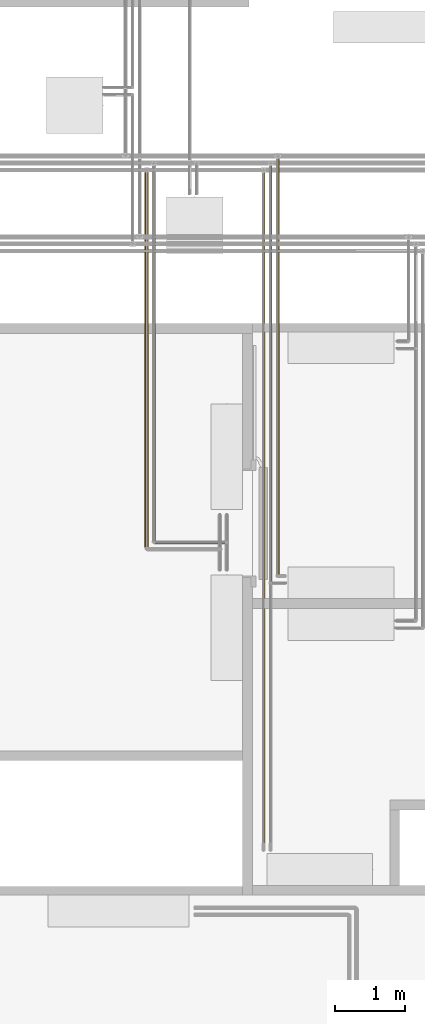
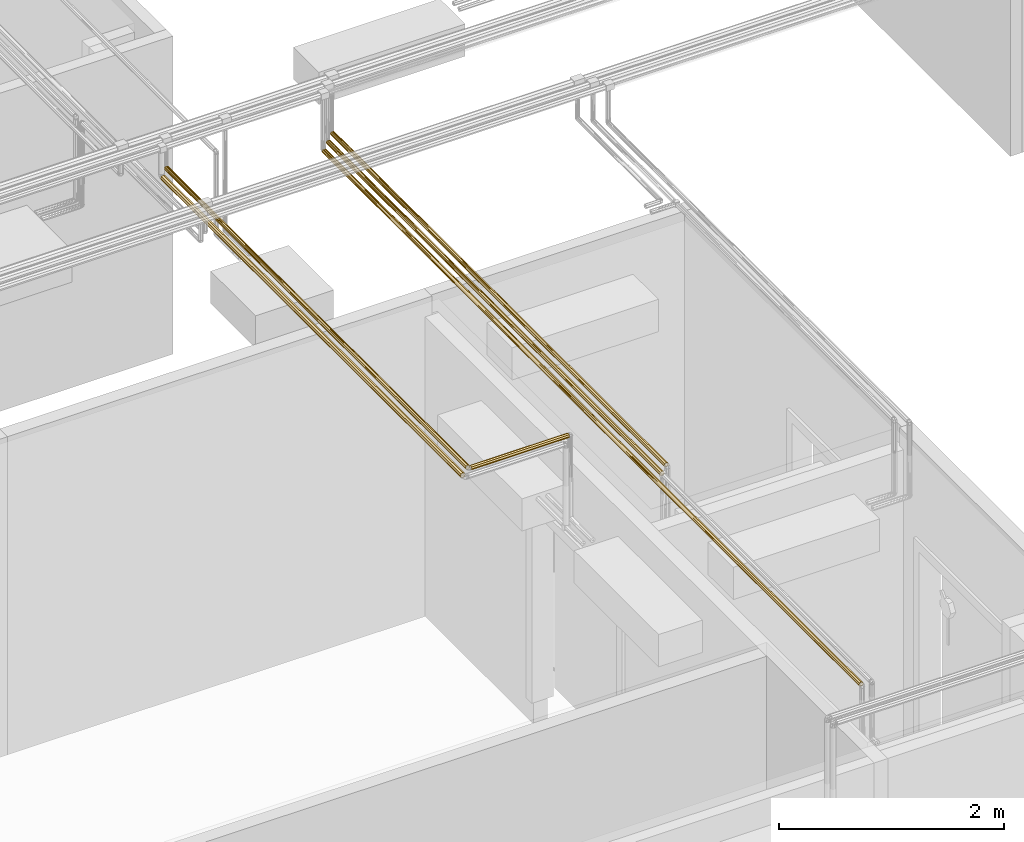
# One storey, part 95 of 652: 6 coverings.
"""IFC2X3 building model written with IfcOpenShell, lengths in millimetres."""

from ifc_helpers import new_model, entity, si_unit, converted_unit, direction, frame, origin, place, context, subcontext, project, spatial, faceted_brep, material, type_object, element, save


model = new_model("IFC2X3")

# Units and contexts
model_context = context("Model", 3, precision=0.01, world=frame((0.0, 0.0, 308426.39999999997)), true_north=direction((6.123233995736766e-17, 1.0)))
plan_context = context("Plan", 3, precision=0.01, world=frame((0.0, 0.0, 308426.39999999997)), true_north=direction((6.123233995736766e-17, 1.0)))
body_context = subcontext(model_context, "Body", "Model", "MODEL_VIEW")
ifc_project = project(units=[si_unit("LENGTHUNIT", "METRE", prefix="MILLI"), si_unit("AREAUNIT", "SQUARE_METRE"), si_unit("VOLUMEUNIT", "CUBIC_METRE"), converted_unit("PLANEANGLEUNIT", "DEGREE", entity("IfcPlaneAngleMeasure", 0.017453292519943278), si_unit("PLANEANGLEUNIT", "RADIAN"), dimensions=[0, 0, 0, 0, 0, 0, 0])], contexts=[model_context, plan_context])

# Site, building, storey
site_placement = place(None, origin())
site = spatial("IfcSite", under=ifc_project, at=site_placement, Name="Default", CompositionType="ELEMENT")
building_placement = place(site_placement, origin())
building = spatial("IfcBuilding", under=site, at=building_placement, CompositionType="ELEMENT")
storey_placement = place(building_placement, frame((0.0, 0.0, 1730.6999999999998)))
storey = spatial("IfcBuildingStorey", under=building, at=storey_placement, Name="EG_Produktion_FFB", CompositionType="ELEMENT", Elevation=1730.6999999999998)

# Coverings
ifc_material = material(Name="Dämmung - Armaflex-Schlauch")
covering_type = type_object("IfcCoveringType", Name="Rohrdämmung außen:Armaflex-Schlauch", PredefinedType="INSULATION")
covering_1_placement = place(storey_placement, frame((35654.64222776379, 55051.21766122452, 3274.642227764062)))
element("IfcCovering", 1, at=covering_1_placement, inside=storey, type_object=covering_type, material=ifc_material, Name="Rohrdämmung außen:Armaflex-Schlauch", ObjectType="Rohrdämmung außen:Armaflex-Schlauch", PredefinedType="INSULATION", context=body_context, shape_type="Brep", body=[
    faceted_brep([(40.92841548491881, 5930.832088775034, 43.30802223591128), (43.951164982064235, 5930.832088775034, 39.26743877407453), (46.97391447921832, 5930.832088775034, 35.2268553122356), (48.04709335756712, 5930.832088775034, 30.292313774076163), (49.12027223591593, 5930.832088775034, 25.35777223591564), (47.38030345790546, 5930.832088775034, 21.157116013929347), (45.64033467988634, 5930.832088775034, 16.956459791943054), (43.900365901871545, 5930.832088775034, 12.755803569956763), (42.16039712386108, 5930.832088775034, 8.55514734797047), (37.95974090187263, 5930.832088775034, 6.8151785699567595), (33.759084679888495, 5930.832088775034, 5.075209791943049), (29.55842845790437, 5930.832088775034, 3.335241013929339), (25.357772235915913, 5930.832088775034, 1.595272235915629), (21.157116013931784, 5930.832088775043, 3.335241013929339), (16.956459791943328, 5930.832088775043, 5.075209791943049), (12.755803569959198, 5930.832088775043, 6.8151785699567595), (8.55514734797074, 5930.832088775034, 8.55514734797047), (6.815178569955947, 5930.832088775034, 12.755803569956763), (5.075209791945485, 5930.832088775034, 16.956459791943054), (3.3352410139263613, 5930.832088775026, 21.157116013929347), (1.5952722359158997, 5930.832088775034, 25.35777223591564), (2.6684511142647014, 5930.832088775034, 30.292313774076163), (3.7416299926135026, 5930.832088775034, 35.22685531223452), (6.764379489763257, 5930.832088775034, 39.26743877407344), (9.787128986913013, 5930.832088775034, 43.30802223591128), (8.55514734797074, 1.5952722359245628, 42.16039712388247), (6.81517856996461, 1.5952722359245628, 37.959740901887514), (5.075209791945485, 1.5952722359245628, 33.75908467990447), (3.3352410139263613, 1.5952722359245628, 29.558428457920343), (1.5952722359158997, 1.5952722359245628, 25.357772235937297), (2.9757514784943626, 1.5952722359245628, 19.799182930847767), (4.356230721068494, 1.5952722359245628, 14.240593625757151), (8.175620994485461, 1.5952722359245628, 9.97455793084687), (11.99501126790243, 1.5952722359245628, 5.70852223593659), (38.720533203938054, 1.5952722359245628, 5.708522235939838), (42.53992347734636, 1.5952722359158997, 9.974557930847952), (46.35931375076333, 1.5952722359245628, 14.240593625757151), (47.73979299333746, 1.5952722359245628, 19.799182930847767), (49.12027223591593, 1.5952722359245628, 25.357772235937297), (47.69950263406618, 1.5952722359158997, 28.787813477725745), (45.64033467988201, 1.5952722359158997, 33.75908467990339), (43.90036590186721, 1.5952722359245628, 37.959740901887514), (42.16039712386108, 1.5952722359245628, 42.16039712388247), (37.95974090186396, 1.5952722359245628, 43.900365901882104), (33.75908467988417, 1.5952722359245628, 45.64033467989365), (29.558428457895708, 1.5952722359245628, 47.38030345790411), (25.357772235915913, 1.5952722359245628, 49.120272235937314), (21.157116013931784, 1.5952722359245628, 47.38030345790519), (16.95645979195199, 1.5952722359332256, 45.64033467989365), (12.755803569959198, 1.5952722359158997, 43.900365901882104), (25.357772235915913, 5.708522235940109, 1.595272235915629), (32.348519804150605, 4.6569415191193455, 2.6468529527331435), (18.367024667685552, 4.6569415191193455, 2.646852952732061), (21.20275131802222, 5925.77005545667, 48.370055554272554), (13.417429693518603, 5928.676180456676, 45.46393055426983), (17.047730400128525, 5926.5202721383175, 47.61983887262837), (25.357772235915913, 5925.019838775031, 49.12027223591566), (29.512793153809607, 5925.77005545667, 48.370055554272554), (33.6678140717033, 5926.5202721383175, 47.61983887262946), (37.29811477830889, 5928.676180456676, 45.46393055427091)], [[[0, 1, 2, 3, 4, 5, 6, 7, 8, 9, 10, 11, 12, 13, 14, 15, 16, 17, 18, 19, 20, 21, 22, 23, 24]], [[25, 26, 27, 28, 29, 30, 31, 32, 33, 34, 35, 36, 37, 38, 39, 40, 41, 42, 43, 44, 45, 46, 47, 48, 49]], [[36, 6, 37]], [[7, 35, 8]], [[38, 37, 5]], [[35, 7, 36]], [[34, 8, 35]], [[8, 34, 10, 9]], [[50, 11, 51]], [[37, 6, 5]], [[11, 50, 12]], [[34, 51, 10]], [[11, 10, 51]], [[38, 5, 4]], [[7, 6, 36]], [[13, 12, 50]], [[16, 33, 32]], [[52, 13, 50]], [[19, 18, 30]], [[31, 17, 32]], [[19, 29, 20]], [[30, 18, 31]], [[33, 14, 52]], [[52, 14, 13]], [[17, 16, 32]], [[29, 19, 30]], [[33, 16, 15, 14]], [[31, 18, 17]], [[23, 26, 25]], [[29, 28, 20]], [[27, 22, 21]], [[27, 26, 22]], [[46, 53, 47]], [[24, 49, 54]], [[55, 48, 47]], [[21, 28, 27]], [[48, 55, 54]], [[22, 26, 23]], [[53, 55, 47]], [[20, 28, 21]], [[25, 24, 23]], [[56, 53, 46]], [[49, 24, 25]], [[49, 48, 54]], [[46, 57, 56]], [[3, 40, 39]], [[57, 46, 45]], [[58, 44, 59]], [[1, 42, 41]], [[42, 1, 0]], [[40, 3, 2]], [[0, 43, 42]], [[44, 58, 45]], [[39, 4, 3]], [[0, 59, 43]], [[41, 2, 1]], [[41, 40, 2]], [[45, 58, 57]], [[39, 38, 4]], [[59, 44, 43]], [[0, 24, 54, 55, 53, 56, 57, 58, 59]], [[33, 52, 50, 51, 34]]]),
])
covering_2_placement = place(storey_placement, frame((33994.64222776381, 55628.229568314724, 3574.6422277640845)))
element("IfcCovering", 2, at=covering_2_placement, inside=storey, type_object=covering_type, material=ifc_material, Name="Rohrdämmung außen:Armaflex-Schlauch", ObjectType="Rohrdämmung außen:Armaflex-Schlauch", PredefinedType="INSULATION", context=body_context, shape_type="Brep", body=[
    faceted_brep([(35.22685531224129, 1.5952722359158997, 3.7416299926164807), (39.26743877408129, 1.5952722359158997, 6.764379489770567), (43.30802223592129, 1.5952722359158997, 9.787128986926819), (43.30802223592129, 1.5952722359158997, 40.92841548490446), (39.267438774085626, 1.5952722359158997, 43.95116498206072), (35.22685531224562, 1.5952722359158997, 46.97391447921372), (30.292313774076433, 1.5952722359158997, 48.04709335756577), (25.357772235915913, 1.5952722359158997, 49.12027223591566), (21.157116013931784, 1.5952722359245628, 47.380303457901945), (16.956459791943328, 1.5952722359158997, 45.640334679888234), (12.755803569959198, 1.5952722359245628, 43.90036590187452), (8.55514734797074, 1.5952722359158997, 42.16039712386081), (6.815178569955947, 1.5952722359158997, 37.95974090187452), (5.075209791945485, 1.5952722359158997, 33.759084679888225), (3.1692119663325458, 1.5952722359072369, 29.157598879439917), (1.5952722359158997, 1.5952722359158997, 25.35777223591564), (3.3352410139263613, 1.5952722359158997, 21.157116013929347), (5.075209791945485, 1.5952722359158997, 16.956459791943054), (6.815178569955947, 1.5952722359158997, 12.75580356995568), (8.55514734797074, 1.5952722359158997, 8.55514734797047), (12.755803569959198, 1.5952722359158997, 6.8151785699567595), (16.956459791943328, 1.5952722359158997, 5.075209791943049), (21.157116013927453, 1.5952722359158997, 3.335241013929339), (25.357772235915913, 1.5952722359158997, 1.595272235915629), (30.292313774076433, 1.5952722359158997, 2.668451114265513), (42.16039712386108, 5353.8201816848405, 8.55514734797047), (37.959740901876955, 5353.8201816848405, 6.8151785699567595), (33.759084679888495, 5353.8201816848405, 5.075209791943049), (29.55842845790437, 5353.8201816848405, 3.335241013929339), (25.357772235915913, 5353.8201816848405, 1.595272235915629), (21.557945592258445, 5353.8201816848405, 3.1692119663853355), (17.758118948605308, 5353.8201816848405, 4.7431516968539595), (13.156633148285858, 5353.820181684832, 6.649149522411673), (8.55514734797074, 5353.8201816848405, 8.55514734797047), (6.815178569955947, 5353.8201816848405, 12.755803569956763), (5.075209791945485, 5353.8201816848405, 16.956459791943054), (3.3352410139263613, 5353.8201816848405, 21.157116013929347), (1.5952722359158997, 5353.8201816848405, 25.35777223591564), (2.6684511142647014, 5353.8201816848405, 30.29231377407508), (3.7416299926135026, 5353.8201816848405, 35.22685531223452), (6.764379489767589, 5353.8201816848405, 39.26743877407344), (9.787128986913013, 5353.8201816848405, 43.30802223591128), (40.92841548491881, 5353.8201816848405, 43.30802223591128), (43.95116498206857, 5353.8201816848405, 39.26743877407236), (46.97391447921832, 5353.8201816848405, 35.22685531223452), (48.047093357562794, 5353.820181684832, 30.29231377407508), (49.12027223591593, 5353.8201816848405, 25.35777223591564), (47.38030345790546, 5353.8201816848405, 21.157116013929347), (45.64033467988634, 5353.8201816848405, 16.956459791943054), (43.90036590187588, 5353.8201816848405, 12.755803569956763), (48.370055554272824, 6.657305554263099, 21.202751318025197), (45.463930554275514, 3.751180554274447, 13.417429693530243), (47.61983887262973, 5.907088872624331, 17.047730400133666), (49.12027223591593, 7.407522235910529, 25.35777223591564), (48.370055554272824, 6.657305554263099, 29.512793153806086), (47.61983887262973, 5.907088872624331, 33.66781407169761), (45.463930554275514, 3.751180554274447, 37.29811477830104), (37.29811477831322, 5351.664273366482, 45.46393055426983), (29.512793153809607, 5348.758148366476, 48.370055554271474), (25.357772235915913, 5348.007931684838, 49.12027223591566), (33.6678140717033, 5349.508365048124, 47.61983887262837), (21.20275131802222, 5348.758148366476, 48.370055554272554), (17.047730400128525, 5349.508365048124, 47.61983887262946), (13.417429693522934, 5351.664273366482, 45.46393055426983)], [[[0, 1, 2, 3, 4, 5, 6, 7, 8, 9, 10, 11, 12, 13, 14, 15, 16, 17, 18, 19, 20, 21, 22, 23, 24]], [[25, 26, 27, 28, 29, 30, 31, 32, 33, 34, 35, 36, 37, 38, 39, 40, 41, 42, 43, 44, 45, 46, 47, 48, 49]], [[35, 34, 33, 19, 18, 17, 16, 15, 37, 36]], [[31, 30, 29, 23, 22, 21, 20, 19, 33, 32]], [[1, 26, 25]], [[29, 28, 23]], [[27, 0, 24]], [[27, 26, 0]], [[46, 50, 47]], [[2, 49, 51]], [[52, 48, 47]], [[24, 28, 27]], [[48, 52, 51]], [[0, 26, 1]], [[50, 52, 47]], [[23, 28, 24]], [[25, 2, 1]], [[53, 50, 46]], [[49, 2, 25]], [[49, 48, 51]], [[54, 53, 46]], [[45, 55, 54]], [[56, 43, 3]], [[4, 57, 5]], [[56, 55, 44]], [[57, 4, 42]], [[58, 7, 6]], [[44, 55, 45]], [[58, 59, 7]], [[54, 46, 45]], [[43, 56, 44]], [[5, 60, 6]], [[43, 42, 3]], [[6, 60, 58]], [[4, 3, 42]], [[57, 60, 5]], [[59, 61, 7]], [[38, 37, 14]], [[8, 61, 62]], [[39, 12, 40]], [[63, 9, 62]], [[11, 41, 40]], [[39, 38, 13]], [[13, 38, 14]], [[7, 61, 8]], [[40, 12, 11]], [[37, 15, 14]], [[39, 13, 12]], [[9, 63, 10]], [[41, 10, 63]], [[8, 62, 9]], [[10, 41, 11]], [[3, 2, 51, 52, 50, 53, 54, 55, 56]], [[60, 57, 42, 41, 63, 62, 61, 59, 58]]]),
])
covering_3_placement = place(storey_placement, frame((34036.3549777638, 55586.51681831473, 3574.6422277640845)))
element("IfcCovering", 3, at=covering_3_placement, inside=storey, type_object=covering_type, material=ifc_material, Name="Rohrdämmung außen:Armaflex-Schlauch", ObjectType="Rohrdämmung außen:Armaflex-Schlauch", PredefinedType="INSULATION", context=body_context, shape_type="Brep", body=[
    faceted_brep([(1.5952722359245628, 1.5952722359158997, 25.35777223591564), (1.5952722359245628, 3.6926937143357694, 30.421395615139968), (1.5952722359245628, 5.075209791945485, 33.759084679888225), (1.5952722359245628, 6.815178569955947, 37.95974090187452), (1.5952722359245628, 8.55514734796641, 42.16039712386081), (1.5952722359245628, 12.755803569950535, 43.90036590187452), (1.5952722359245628, 16.956459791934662, 45.640334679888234), (1.5952722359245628, 21.15711601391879, 47.380303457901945), (1.5952722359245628, 25.35777223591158, 49.12027223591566), (1.5952722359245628, 30.292313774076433, 48.04709335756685), (1.5952722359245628, 35.22685531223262, 46.97391447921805), (1.5952722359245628, 39.267438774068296, 43.951164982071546), (1.5952722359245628, 43.30802223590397, 40.92841548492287), (1.5952722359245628, 43.30802223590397, 9.78712898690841), (1.5952722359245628, 39.267438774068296, 6.764379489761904), (1.5952722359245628, 35.22685531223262, 3.741629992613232), (1.5952722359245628, 30.292313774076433, 2.6684511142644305), (1.5952722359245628, 25.35777223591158, 1.595272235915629), (1.5952722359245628, 21.15711601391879, 3.335241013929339), (1.5952722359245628, 16.956459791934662, 5.075209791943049), (1.5952722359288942, 12.755803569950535, 6.8151785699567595), (1.5952722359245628, 8.55514734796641, 8.55514734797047), (1.5952722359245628, 6.815178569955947, 12.755803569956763), (1.5952722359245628, 5.075209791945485, 16.956459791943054), (1.5952722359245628, 3.6926937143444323, 20.294148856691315), (1005.6947722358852, 9.787128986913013, 7.407522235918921), (1005.6947722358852, 40.92841548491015, 7.407522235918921), (1005.6947722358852, 43.951164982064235, 11.448105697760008), (1005.6947722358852, 46.97391447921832, 15.48868915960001), (1005.6947722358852, 48.047093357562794, 20.423230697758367), (1005.6947722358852, 49.12027223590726, 25.35777223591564), (1005.6947722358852, 47.3803034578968, 29.558428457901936), (1005.6947722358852, 45.640334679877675, 33.759084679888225), (1005.6947722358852, 43.90036590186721, 37.95974090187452), (1005.6947722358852, 42.160397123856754, 42.16039712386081), (1005.6947722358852, 37.95974090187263, 43.90036590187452), (1005.6947722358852, 33.759084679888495, 45.640334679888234), (1005.6947722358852, 29.55842845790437, 47.380303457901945), (1005.6947722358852, 25.35777223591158, 49.12027223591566), (1005.6947722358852, 20.294148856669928, 47.02285075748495), (1005.6947722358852, 15.230525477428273, 44.925429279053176), (1005.6947722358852, 8.55514734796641, 42.16039712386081), (1005.6947722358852, 6.815178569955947, 37.95974090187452), (1005.6947722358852, 5.075209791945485, 33.759084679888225), (1005.6947722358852, 3.335241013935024, 29.558428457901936), (1005.6947722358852, 1.5952722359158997, 25.35777223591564), (1005.6947722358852, 2.6684511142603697, 20.423230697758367), (1005.6947722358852, 3.7416299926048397, 15.48868915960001), (1005.6947722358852, 6.764379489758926, 11.448105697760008), (6.657305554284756, 48.37005555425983, 21.2027513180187), (7.407522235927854, 49.12027223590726, 25.35777223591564), (5.9070888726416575, 47.61983887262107, 17.047730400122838), (3.75118055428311, 45.46393055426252, 13.41742969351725), (1003.5388639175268, 37.29811477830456, 5.251613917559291), (1001.3829555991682, 33.66781407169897, 3.095705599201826), (1000.6327389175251, 29.512793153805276, 2.345488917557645), (999.882522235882, 25.35777223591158, 1.595272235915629), (1000.6327389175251, 21.202751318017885, 2.345488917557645), (1001.3829555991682, 17.04773040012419, 3.095705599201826), (1003.5388639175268, 13.417429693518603, 5.251613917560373), (6.6573055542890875, 48.37005555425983, 29.512793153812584), (3.75118055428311, 45.46393055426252, 37.2981147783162), (5.9070888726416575, 47.61983887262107, 33.66781407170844)], [[[0, 1, 2, 3, 4, 5, 6, 7, 8, 9, 10, 11, 12, 13, 14, 15, 16, 17, 18, 19, 20, 21, 22, 23, 24]], [[25, 26, 27, 28, 29, 30, 31, 32, 33, 34, 35, 36, 37, 38, 39, 40, 41, 42, 43, 44, 45, 46, 47, 48]], [[49, 50, 30]], [[29, 51, 49]], [[52, 27, 13]], [[14, 53, 15]], [[53, 54, 15]], [[53, 14, 26]], [[52, 51, 28]], [[55, 17, 16]], [[28, 51, 29]], [[55, 56, 17]], [[49, 30, 29]], [[27, 26, 13]], [[27, 52, 28]], [[14, 13, 26]], [[16, 54, 55]], [[15, 54, 16]], [[56, 57, 17]], [[45, 0, 46]], [[18, 57, 58]], [[47, 22, 48]], [[59, 19, 58]], [[21, 25, 48]], [[47, 46, 23]], [[23, 46, 0, 24]], [[17, 57, 18]], [[48, 22, 21]], [[47, 23, 22]], [[19, 59, 20]], [[25, 20, 59]], [[18, 58, 19]], [[20, 25, 21]], [[38, 8, 7, 6, 5, 4, 41, 40, 39]], [[3, 2, 1, 0, 45, 44, 43, 42, 41, 4]], [[11, 35, 34]], [[38, 37, 8]], [[36, 10, 9]], [[36, 35, 10]], [[30, 60, 31]], [[12, 33, 61]], [[62, 32, 31]], [[9, 37, 36]], [[32, 62, 61]], [[10, 35, 11]], [[60, 62, 31]], [[8, 37, 9]], [[34, 12, 11]], [[50, 60, 30]], [[33, 12, 34]], [[33, 32, 61]], [[12, 61, 62, 60, 50, 49, 51, 52, 13]], [[55, 54, 53, 26, 25, 59, 58, 57, 56]]]),
])
covering_4_placement = place(storey_placement, frame((35554.64222776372, 51341.20263771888, 3325.3577722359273)))
element("IfcCovering", 4, at=covering_4_placement, inside=storey, type_object=covering_type, material=ifc_material, Name="Rohrdämmung außen:Armaflex-Schlauch", ObjectType="Rohrdämmung außen:Armaflex-Schlauch", PredefinedType="INSULATION", context=body_context, shape_type="Brep", body=[
    faceted_brep([(40.928415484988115, 9540.847112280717, -7.407522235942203), (43.95116498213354, 9540.847112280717, -11.44810569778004), (46.97391447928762, 9540.847112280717, -15.48868915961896), (47.971592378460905, 9540.847112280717, -20.07607261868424), (49.120272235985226, 9540.847112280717, -25.35777223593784), (47.380303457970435, 9540.847112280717, -29.558428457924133), (45.64033467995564, 9540.847112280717, -33.75908467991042), (43.90036590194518, 9540.847112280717, -37.959740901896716), (42.16039712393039, 9540.847112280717, -42.160397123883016), (37.95974090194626, 9540.847112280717, -43.90036590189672), (33.7590846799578, 9540.847112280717, -45.64033467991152), (30.261525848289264, 9540.847112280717, -47.08907098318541), (25.357772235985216, 9540.847112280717, -49.120272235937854), (21.157116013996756, 9540.847112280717, -47.38030345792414), (16.95645979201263, 9540.847112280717, -45.64033467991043), (12.755803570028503, 9540.847112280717, -43.90036590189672), (8.555147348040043, 9540.847112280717, -42.160397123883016), (6.815178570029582, 9540.847112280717, -37.959740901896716), (5.075209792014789, 9540.847112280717, -33.75908467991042), (3.3352410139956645, 9540.847112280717, -29.558428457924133), (1.5952722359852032, 9540.847112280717, -25.35777223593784), (2.6684511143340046, 9540.847112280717, -20.4232306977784), (3.7416299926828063, 9540.847112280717, -15.48868915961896), (6.7643794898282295, 9540.847112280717, -11.448105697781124), (9.787128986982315, 9540.847112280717, -7.407522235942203), (3.74162999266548, 1.5952722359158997, -35.22685531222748), (6.764379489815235, 1.5952722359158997, -39.26743877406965), (9.787128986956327, 1.5952722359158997, -43.30802223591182), (40.92841548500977, 1.5952722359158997, -43.30802223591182), (43.9511649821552, 1.5952722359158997, -39.2674387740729), (46.97391447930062, 1.5952722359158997, -35.22685531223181), (47.971592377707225, 1.5952722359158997, -30.63947185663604), (49.12027223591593, 1.5952722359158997, -25.357772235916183), (47.08907098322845, 1.5952722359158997, -20.454018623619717), (45.640334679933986, 1.5952722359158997, -16.956459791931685), (43.900365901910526, 1.5952722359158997, -12.755803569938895), (42.16039712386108, 1.5952722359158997, -8.55514734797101), (37.959740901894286, 1.5952722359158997, -6.815178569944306), (33.75908467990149, 1.5952722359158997, -5.075209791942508), (30.26152584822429, 1.5952722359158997, -3.6264734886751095), (25.357772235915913, 1.5952722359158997, -1.5952722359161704), (21.15711601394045, 1.5952722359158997, -3.3352410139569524), (16.956459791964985, 1.5952722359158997, -5.0752097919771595), (12.755803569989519, 1.5952722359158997, -6.8151785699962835), (8.55514734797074, 1.5952722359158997, -8.55514734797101), (6.815178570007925, 1.5952722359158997, -12.755803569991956), (5.075209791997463, 1.5952722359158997, -16.95645979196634), (3.3352410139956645, 1.5952722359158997, -21.15711601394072), (1.5952722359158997, 1.5952722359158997, -25.357772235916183), (2.7439520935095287, 1.5952722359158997, -30.639471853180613), (37.298114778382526, 3.75118055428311, -45.463930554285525), (33.66781407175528, 5.907088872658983, -47.61983887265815), (49.120272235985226, 5448.296086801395, -25.357772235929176), (25.357772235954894, 5454.059423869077, -49.120272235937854), (30.689342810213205, 6.4448716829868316, -48.15762168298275), (25.357772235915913, 7.40752223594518, -49.120272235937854), (25.357772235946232, 4094.1149772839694, -49.120272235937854), (13.222423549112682, 4435.507588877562, -45.78789016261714), (20.026201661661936, 6.444871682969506, -48.15762168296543), (17.047730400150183, 5.907088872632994, -47.619838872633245), (13.417429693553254, 3.751180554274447, -45.46393055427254), (13.222423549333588, 5106.93479567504, -4.9276543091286), (17.04773040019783, 9536.535295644, -3.095705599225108), (25.357772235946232, 4088.3340476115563, -1.5952722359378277), (25.357772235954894, 5448.296086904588, -1.5952722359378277), (20.026201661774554, 9535.997512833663, -2.557922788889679), (13.417429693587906, 9538.691203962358, -5.251613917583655), (25.357772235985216, 9535.034862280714, -1.5952722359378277), (30.68934281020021, 9535.997512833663, -2.5579227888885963), (33.667814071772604, 9536.535295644, -3.095705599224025), (37.29811477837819, 9538.691203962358, -5.25161391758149)], [[[0, 1, 2, 3, 4, 5, 6, 7, 8, 9, 10, 11, 12, 13, 14, 15, 16, 17, 18, 19, 20, 21, 22, 23, 24]], [[25, 26, 27, 28, 29, 30, 31, 32, 33, 34, 35, 36, 37, 38, 39, 40, 41, 42, 43, 44, 45, 46, 47, 48, 49]], [[31, 6, 5]], [[50, 51, 10]], [[5, 4, 52, 32]], [[6, 31, 30]], [[7, 6, 30]], [[9, 8, 28]], [[9, 28, 50]], [[53, 12, 11]], [[28, 8, 29]], [[54, 11, 51]], [[51, 11, 10]], [[54, 55, 56, 53]], [[11, 54, 53]], [[29, 8, 7]], [[5, 32, 31]], [[7, 30, 29]], [[50, 10, 9]], [[57, 16, 15, 14]], [[13, 58, 59]], [[13, 12, 53, 56]], [[16, 57, 27]], [[57, 59, 60, 27]], [[25, 17, 26]], [[49, 19, 18]], [[56, 58, 13]], [[56, 55, 58]], [[48, 19, 49]], [[13, 59, 14]], [[18, 17, 25]], [[20, 19, 48]], [[26, 17, 16]], [[14, 59, 57]], [[49, 18, 25]], [[26, 16, 27]], [[48, 47, 20]], [[44, 61, 24]], [[46, 21, 47]], [[22, 45, 23]], [[45, 22, 46]], [[42, 62, 61]], [[41, 40, 63, 64]], [[64, 65, 41]], [[41, 65, 62]], [[61, 62, 66, 24]], [[41, 62, 42]], [[61, 44, 43, 42]], [[45, 44, 23]], [[64, 67, 65]], [[20, 47, 21]], [[23, 44, 24]], [[21, 46, 22]], [[37, 36, 0]], [[68, 39, 69]], [[68, 67, 64, 63]], [[38, 69, 39]], [[37, 0, 70]], [[39, 68, 63]], [[35, 2, 1]], [[0, 36, 1]], [[70, 69, 38]], [[2, 34, 3]], [[1, 36, 35]], [[35, 34, 2]], [[3, 33, 52]], [[63, 40, 39]], [[52, 4, 3]], [[33, 3, 34]], [[33, 32, 52]], [[70, 38, 37]], [[0, 24, 66, 62, 65, 67, 68, 69, 70]], [[28, 27, 60, 59, 58, 55, 54, 51, 50]]]),
])
covering_5_placement = place(storey_placement, frame((33891.46722776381, 55543.85834055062, 3571.467227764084)))
element("IfcCovering", 5, at=covering_5_placement, inside=storey, type_object=covering_type, material=ifc_material, Name="Rohrdämmung außen:Armaflex-Schlauch", ObjectType="Rohrdämmung außen:Armaflex-Schlauch", PredefinedType="INSULATION", context=body_context, shape_type="Brep", body=[
    faceted_brep([(9.485083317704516, 0.0, 47.58046115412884), (7.512630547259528, 0.0, 42.818538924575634), (5.540177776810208, 0.0, 38.05661669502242), (3.5677250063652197, 0.0, 33.29469446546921), (1.5952722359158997, 0.0, 28.532772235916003), (3.5677250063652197, 0.0, 23.770850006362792), (5.540177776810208, 0.0, 19.008927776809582), (7.512630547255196, 0.0, 14.247005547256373), (9.485083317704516, 0.0, 9.485083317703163), (14.24700554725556, 0.0, 7.512630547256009), (19.008927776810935, 0.0, 5.540177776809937), (23.770850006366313, 0.0, 3.567725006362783), (28.532772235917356, 0.0, 1.595272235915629), (33.14323954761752, 0.0, 3.5049903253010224), (38.05661669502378, 0.0, 5.540177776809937), (42.81853892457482, 0.0, 7.512630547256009), (47.5804611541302, 0.0, 9.485083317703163), (49.552913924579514, 0.0, 14.247005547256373), (51.5253666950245, 0.0, 19.008927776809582), (53.49781946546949, 0.0, 23.770850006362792), (55.47027223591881, 0.0, 28.532772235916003), (53.56055414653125, 0.0, 33.143239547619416), (51.5253666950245, 0.0, 38.05661669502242), (49.552913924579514, 0.0, 42.818538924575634), (47.5804611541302, 0.0, 47.58046115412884), (42.81853892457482, 0.0, 49.552913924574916), (38.05661669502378, 0.0, 51.525366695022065), (33.29469446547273, 0.0, 53.49781946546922), (28.532772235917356, 0.0, 55.470272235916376), (23.92230492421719, 0.0, 53.56055414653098), (19.008927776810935, 0.0, 51.525366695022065), (14.24700554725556, 0.0, 49.552913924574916), (47.5804611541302, 5324.157909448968, 9.485083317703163), (42.81853892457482, 5324.157909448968, 7.512630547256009), (38.05661669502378, 5324.157909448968, 5.540177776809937), (33.29469446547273, 5324.157909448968, 3.567725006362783), (28.532772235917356, 5324.157909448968, 1.595272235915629), (23.922304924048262, 5324.157909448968, 3.5049903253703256), (19.311837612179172, 5324.157909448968, 5.414708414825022), (14.398460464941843, 5324.157909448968, 7.449895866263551), (9.485083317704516, 5324.157909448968, 9.485083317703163), (7.512630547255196, 5324.157909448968, 14.247005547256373), (5.540177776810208, 5324.157909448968, 19.008927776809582), (3.5677250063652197, 5324.157909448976, 23.770850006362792), (1.5952722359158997, 5324.157909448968, 28.532772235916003), (3.504990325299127, 5324.157909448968, 33.143239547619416), (5.414708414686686, 5324.157909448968, 37.75370685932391), (7.449895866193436, 5324.157909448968, 42.66708400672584), (9.485083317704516, 5324.157909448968, 47.58046115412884), (14.24700554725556, 5324.157909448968, 49.552913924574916), (19.008927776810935, 5324.157909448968, 51.525366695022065), (23.770850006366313, 5324.157909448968, 53.49781946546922), (28.532772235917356, 5324.157909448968, 55.470272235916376), (33.14323954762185, 5324.157909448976, 53.5605541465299), (37.753706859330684, 5324.157909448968, 51.65083605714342), (42.6670840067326, 5324.157909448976, 49.61564860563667), (47.5804611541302, 5324.157909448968, 47.58046115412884), (49.552913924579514, 5324.157909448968, 42.818538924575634), (51.5253666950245, 5324.157909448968, 38.05661669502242), (53.49781946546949, 5324.157909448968, 33.29469446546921), (55.47027223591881, 5324.157909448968, 28.532772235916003), (53.56055414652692, 5324.157909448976, 23.92230492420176), (51.650836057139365, 5324.157909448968, 19.311837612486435), (49.61564860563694, 5324.157909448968, 14.39846046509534)], [[[0, 1, 2, 3, 4, 5, 6, 7, 8, 9, 10, 11, 12, 13, 14, 15, 16, 17, 18, 19, 20, 21, 22, 23, 24, 25, 26, 27, 28, 29, 30, 31]], [[32, 33, 34, 35, 36, 37, 38, 39, 40, 41, 42, 43, 44, 45, 46, 47, 48, 49, 50, 51, 52, 53, 54, 55, 56, 57, 58, 59, 60, 61, 62, 63]], [[42, 41, 40, 8, 7, 6, 5, 4, 44, 43]], [[38, 37, 36, 12, 11, 10, 9, 8, 40, 39]], [[13, 12, 36, 35, 34, 33, 32, 16, 15, 14]], [[16, 32, 63, 62, 61, 60, 20, 19, 18, 17]], [[21, 20, 60, 59, 58, 57, 56, 24, 23, 22]], [[24, 56, 55, 54, 53, 52, 28, 27, 26, 25]], [[29, 28, 52, 51, 50, 49, 48, 0, 31, 30]], [[0, 48, 47, 46, 45, 44, 4, 3, 2, 1]]]),
])
covering_6_placement = place(storey_placement, frame((35754.64222776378, 55149.51866122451, 3274.642227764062)))
element("IfcCovering", 6, at=covering_6_placement, inside=storey, type_object=covering_type, material=ifc_material, Name="Rohrdämmung außen:Armaflex-Schlauch", ObjectType="Rohrdämmung außen:Armaflex-Schlauch", PredefinedType="INSULATION", context=body_context, shape_type="Brep", body=[
    faceted_brep([(40.92841548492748, 5932.531088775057, 43.30802223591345), (43.95116498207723, 5932.531088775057, 39.26743877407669), (46.973914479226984, 5932.531088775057, 35.22685531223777), (48.04709335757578, 5932.531088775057, 30.29231377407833), (49.12027223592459, 5932.531088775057, 25.357772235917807), (47.3803034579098, 5932.531088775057, 21.157116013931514), (45.64033467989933, 5932.531088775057, 16.95645979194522), (43.90036590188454, 5932.531088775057, 12.755803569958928), (42.16039712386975, 5932.531088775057, 8.555147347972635), (37.95974090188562, 5932.531088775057, 6.815178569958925), (33.759084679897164, 5932.531088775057, 5.075209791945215), (29.558428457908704, 5932.531088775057, 3.3352410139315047), (25.357772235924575, 5932.531088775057, 1.5952722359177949), (21.15711601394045, 5932.531088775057, 3.3352410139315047), (16.95645979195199, 5932.531088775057, 5.075209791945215), (12.75580356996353, 5932.531088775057, 6.815178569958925), (8.555147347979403, 5932.531088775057, 8.555147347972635), (6.81517856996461, 5932.531088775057, 12.755803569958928), (5.075209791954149, 5932.531088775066, 16.95645979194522), (3.015634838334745, 5932.531088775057, 21.92871357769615), (1.5952722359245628, 5932.531088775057, 25.357772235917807), (2.6684511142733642, 5932.531088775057, 30.292313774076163), (3.7416299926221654, 5932.531088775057, 35.2268553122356), (6.764379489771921, 5932.531088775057, 39.26743877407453), (9.787128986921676, 5932.531088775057, 43.30802223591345), (42.16039712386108, 1.5952722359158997, 42.160397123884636), (37.95974090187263, 1.5952722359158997, 43.9003659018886), (33.75908467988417, 1.5952722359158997, 45.64033467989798), (29.55842845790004, 1.5952722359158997, 47.38030345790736), (25.357772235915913, 1.5952722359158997, 49.120272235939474), (21.157116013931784, 1.5952722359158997, 47.38030345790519), (16.95645979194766, 1.5952722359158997, 45.64033467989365), (12.755803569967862, 1.5952722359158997, 43.900365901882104), (8.55514734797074, 1.5952722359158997, 42.160397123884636), (6.815178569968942, 1.5952722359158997, 37.959740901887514), (5.075209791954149, 1.5952722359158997, 33.75908467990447), (3.335241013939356, 1.5952722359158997, 29.558428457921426), (1.5952722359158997, 1.5952722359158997, 25.357772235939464), (2.6684511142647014, 1.5952722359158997, 20.423230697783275), (3.7416299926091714, 1.5952722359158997, 15.488689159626), (6.764379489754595, 1.5952722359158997, 11.448105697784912), (9.787128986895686, 1.5952722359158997, 7.407522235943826), (40.928415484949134, 1.5952722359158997, 7.407522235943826), (43.951164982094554, 1.5952722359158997, 11.448105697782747), (46.97391447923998, 1.5952722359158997, 15.488689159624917), (48.04709335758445, 1.5952722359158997, 20.423230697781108), (49.12027223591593, 1.5952722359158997, 25.357772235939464), (47.699909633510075, 1.5952722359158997, 28.78683089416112), (45.64033467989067, 1.5952722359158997, 33.7590846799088), (43.90036590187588, 1.5952722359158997, 37.95974090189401), (33.667814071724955, 5.90708887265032, 3.0957055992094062), (37.29811477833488, 3.75118055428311, 5.251613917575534), (29.51279315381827, 6.6573055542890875, 2.3454889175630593), (25.357772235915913, 7.407522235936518, 1.5952722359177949), (21.202751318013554, 6.65730555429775, 2.3454889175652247), (17.04773040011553, 5.90708887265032, 3.0957055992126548), (13.41742969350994, 3.75118055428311, 5.251613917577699), (21.20275131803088, 5927.469055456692, 48.37005555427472), (13.417429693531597, 5930.375180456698, 45.46393055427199), (17.047730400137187, 5928.21927213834, 47.61983887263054), (25.357772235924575, 5926.718838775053, 49.12027223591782), (29.51279315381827, 5927.469055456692, 48.37005555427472), (33.667814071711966, 5928.21927213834, 47.619838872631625), (37.298114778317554, 5930.375180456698, 45.46393055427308)], [[[0, 1, 2, 3, 4, 5, 6, 7, 8, 9, 10, 11, 12, 13, 14, 15, 16, 17, 18, 19, 20, 21, 22, 23, 24]], [[25, 26, 27, 28, 29, 30, 31, 32, 33, 34, 35, 36, 37, 38, 39, 40, 41, 42, 43, 44, 45, 46, 47, 48, 49]], [[46, 5, 4]], [[10, 50, 11]], [[5, 46, 45]], [[45, 6, 5]], [[42, 8, 43]], [[9, 42, 51]], [[51, 50, 10]], [[52, 53, 12]], [[44, 43, 7]], [[43, 8, 7]], [[44, 7, 6]], [[11, 50, 52]], [[8, 42, 9]], [[45, 44, 6]], [[51, 10, 9]], [[52, 12, 11]], [[53, 54, 12]], [[38, 37, 19]], [[13, 54, 55]], [[39, 17, 40]], [[56, 14, 55]], [[16, 41, 40]], [[39, 38, 18]], [[18, 38, 19]], [[12, 54, 13]], [[40, 17, 16]], [[37, 20, 19]], [[39, 18, 17]], [[14, 56, 15]], [[41, 15, 56]], [[13, 55, 14]], [[15, 41, 16]], [[23, 34, 33]], [[37, 36, 20]], [[35, 22, 21]], [[35, 34, 22]], [[29, 57, 30]], [[24, 32, 58]], [[59, 31, 30]], [[21, 36, 35]], [[31, 59, 58]], [[22, 34, 23]], [[57, 59, 30]], [[20, 36, 21]], [[33, 24, 23]], [[60, 57, 29]], [[32, 24, 33]], [[32, 31, 58]], [[29, 61, 60]], [[3, 48, 47]], [[61, 29, 28]], [[62, 27, 63]], [[1, 25, 49]], [[25, 1, 0]], [[48, 3, 2]], [[0, 26, 25]], [[27, 62, 28]], [[47, 4, 3]], [[0, 63, 26]], [[49, 2, 1]], [[49, 48, 2]], [[28, 62, 61]], [[47, 46, 4]], [[63, 27, 26]], [[0, 24, 58, 59, 57, 60, 61, 62, 63]], [[50, 51, 42, 41, 56, 55, 54, 53, 52]]]),
])

save(model, "model.ifc")
